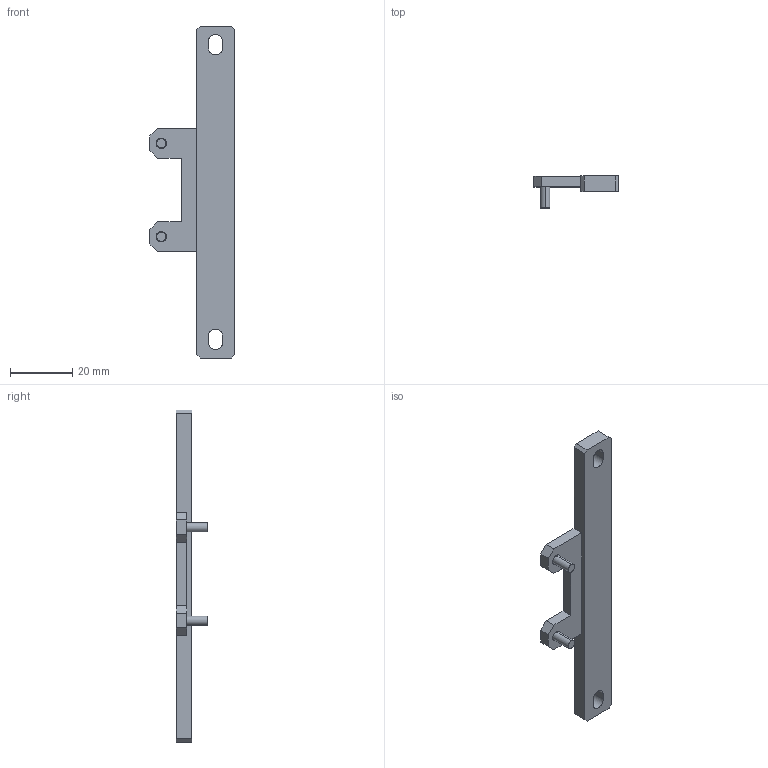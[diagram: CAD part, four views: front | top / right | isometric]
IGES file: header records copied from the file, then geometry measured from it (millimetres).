
Start section: ------------------------------------------------------------------------
Bounding box: 27.2 x 10.3 x 107 mm (x, y, z)
Volume: 7555.7 mm3; surface area: 5048.5 mm2
Topology: 1 solids, 1 shells, 58 faces, 144 edges, 90 vertices
Faces by surface type: bspline 58
